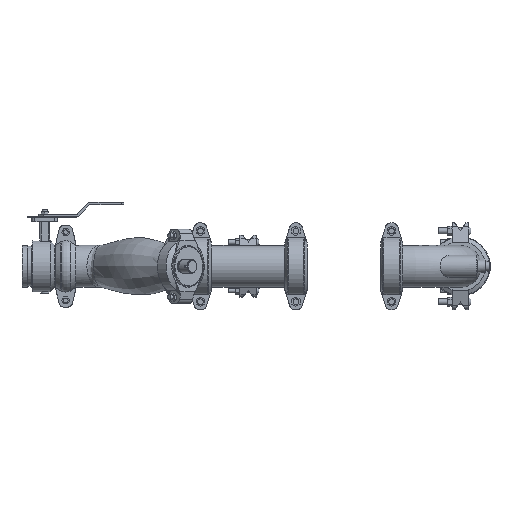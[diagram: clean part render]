
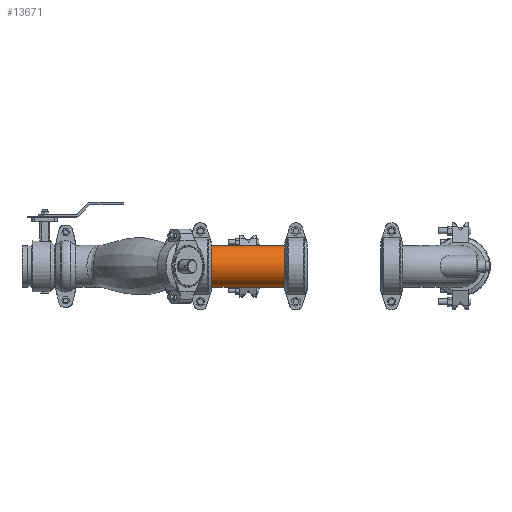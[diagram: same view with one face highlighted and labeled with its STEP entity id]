
A CAD part, left-side view. The second image highlights one B-rep face of the part: STEP entity #13671.
In plain terms, the highlighted cylindrical face has radius 57.15 mm (diameter 114.3 mm), a full revolution.
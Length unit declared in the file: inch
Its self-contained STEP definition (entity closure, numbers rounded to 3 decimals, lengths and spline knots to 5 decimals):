
#307=B_SPLINE_CURVE_WITH_KNOTS('',3,(#20844,#20845,#20846,#20847,#20848,
#20849,#20850,#20851,#20852,#20853,#20854,#20855,#20856,#20857,#20858,#20859,
#20860,#20861,#20862,#20863,#20864,#20865,#20866,#20867,#20868,#20869,#20870,
#20871,#20872,#20873,#20874,#20875,#20876,#20877,#20878,#20879,#20880,#20881,
#20882,#20883,#20884,#20885,#20886,#20887,#20888,#20889,#20890,#20891,#20892,
#20893),.UNSPECIFIED.,.F.,.F.,(4,2,2,2,2,2,2,2,2,2,2,2,2,2,2,2,2,2,2,2,
2,2,2,2,4),(0.,0.71641,1.43281,2.14922,2.86562,
3.5757,4.28578,4.99586,5.70593,6.41601,
7.12609,7.83617,8.54625,9.26265,9.97906,
10.69546,11.41187,12.12827,12.84468,13.56108,
14.27749,14.98757,15.69765,16.40772,17.1178),
 .UNSPECIFIED.);
#308=B_SPLINE_CURVE_WITH_KNOTS('',3,(#20894,#20895,#20896,#20897,#20898,
#20899,#20900,#20901,#20902,#20903,#20904,#20905,#20906,#20907,#20908,#20909,
#20910,#20911),.UNSPECIFIED.,.F.,.F.,(4,2,2,2,2,2,2,2,4),(17.1178,
17.82788,18.53796,19.24804,19.95811,20.67452,
21.39092,22.10733,22.82374),.UNSPECIFIED.);
#472=LINE('',#20941,#1454);
#1454=VECTOR('',#16618,2.25);
#2434=CYLINDRICAL_SURFACE('',#14865,2.25);
#2696=FACE_BOUND('',#3631,.T.);
#2876=FACE_OUTER_BOUND('',#3630,.T.);
#3630=EDGE_LOOP('',(#8731,#8732,#8733,#8734,#8735,#8736));
#3631=EDGE_LOOP('',(#8737,#8738));
#4547=CIRCLE('',#14866,2.25);
#4548=CIRCLE('',#14867,2.25);
#4549=CIRCLE('',#14868,2.25);
#4550=CIRCLE('',#14869,2.25);
#5308=VERTEX_POINT('',#20841);
#5309=VERTEX_POINT('',#20843);
#5318=VERTEX_POINT('',#20936);
#5319=VERTEX_POINT('',#20937);
#5320=VERTEX_POINT('',#20940);
#5321=VERTEX_POINT('',#20942);
#6658=EDGE_CURVE('',#5309,#5308,#307,.T.);
#6659=EDGE_CURVE('',#5308,#5309,#308,.T.);
#6670=EDGE_CURVE('',#5318,#5319,#4547,.T.);
#6671=EDGE_CURVE('',#5319,#5318,#4548,.T.);
#6672=EDGE_CURVE('',#5319,#5320,#472,.T.);
#6673=EDGE_CURVE('',#5320,#5321,#4549,.T.);
#6674=EDGE_CURVE('',#5321,#5320,#4550,.T.);
#8731=ORIENTED_EDGE('',*,*,#6670,.F.);
#8732=ORIENTED_EDGE('',*,*,#6671,.F.);
#8733=ORIENTED_EDGE('',*,*,#6672,.T.);
#8734=ORIENTED_EDGE('',*,*,#6673,.T.);
#8735=ORIENTED_EDGE('',*,*,#6674,.T.);
#8736=ORIENTED_EDGE('',*,*,#6672,.F.);
#8737=ORIENTED_EDGE('',*,*,#6658,.T.);
#8738=ORIENTED_EDGE('',*,*,#6659,.T.);
#13671=ADVANCED_FACE('',(#2876,#2696),#2434,.T.);
#14865=AXIS2_PLACEMENT_3D('',#20935,#16612,#16613);
#14866=AXIS2_PLACEMENT_3D('',#20938,#16614,#16615);
#14867=AXIS2_PLACEMENT_3D('',#20939,#16616,#16617);
#14868=AXIS2_PLACEMENT_3D('',#20943,#16619,#16620);
#14869=AXIS2_PLACEMENT_3D('',#20944,#16621,#16622);
#16612=DIRECTION('center_axis',(1.,0.,0.));
#16613=DIRECTION('ref_axis',(0.,-1.,0.));
#16614=DIRECTION('center_axis',(1.,0.,0.));
#16615=DIRECTION('ref_axis',(0.,-1.,0.));
#16616=DIRECTION('center_axis',(1.,0.,0.));
#16617=DIRECTION('ref_axis',(0.,-1.,0.));
#16618=DIRECTION('',(-1.,0.,0.));
#16619=DIRECTION('center_axis',(1.,0.,0.));
#16620=DIRECTION('ref_axis',(0.,-1.,0.));
#16621=DIRECTION('center_axis',(1.,0.,0.));
#16622=DIRECTION('ref_axis',(0.,-1.,0.));
#20841=CARTESIAN_POINT('',(1.4375,-2.25,0.));
#20843=CARTESIAN_POINT('',(0.,-1.73092,-1.4375));
#20844=CARTESIAN_POINT('Ctrl Pts',(0.,-1.73092,-1.4375));
#20845=CARTESIAN_POINT('Ctrl Pts',(-0.09402,-1.73092,
-1.4375));
#20846=CARTESIAN_POINT('Ctrl Pts',(-0.18975,-1.73882,
-1.42815));
#20847=CARTESIAN_POINT('Ctrl Pts',(-0.37779,-1.76924,
-1.39028));
#20848=CARTESIAN_POINT('Ctrl Pts',(-0.47012,-1.79168,
-1.36179));
#20849=CARTESIAN_POINT('Ctrl Pts',(-0.64575,-1.84556,
-1.28783));
#20850=CARTESIAN_POINT('Ctrl Pts',(-0.72923,-1.87696,
-1.24229));
#20851=CARTESIAN_POINT('Ctrl Pts',(-0.88329,-1.94201,
-1.13792));
#20852=CARTESIAN_POINT('Ctrl Pts',(-0.95388,-1.97562,
-1.07905));
#20853=CARTESIAN_POINT('Ctrl Pts',(-1.0785,-2.03872,
-0.95443));
#20854=CARTESIAN_POINT('Ctrl Pts',(-1.13727,-2.07066,
-0.88414));
#20855=CARTESIAN_POINT('Ctrl Pts',(-1.24184,-2.12988,
-0.73001));
#20856=CARTESIAN_POINT('Ctrl Pts',(-1.28764,-2.15714,
-0.64618));
#20857=CARTESIAN_POINT('Ctrl Pts',(-1.36195,-2.2023,
-0.46975));
#20858=CARTESIAN_POINT('Ctrl Pts',(-1.39051,-2.22022,-0.37697));
#20859=CARTESIAN_POINT('Ctrl Pts',(-1.42829,-2.24408,
-0.18869));
#20860=CARTESIAN_POINT('Ctrl Pts',(-1.4375,-2.25,-0.09319));
#20861=CARTESIAN_POINT('Ctrl Pts',(-1.4375,-2.25,0.09319));
#20862=CARTESIAN_POINT('Ctrl Pts',(-1.42829,-2.24408,
0.18869));
#20863=CARTESIAN_POINT('Ctrl Pts',(-1.39051,-2.22022,0.37697));
#20864=CARTESIAN_POINT('Ctrl Pts',(-1.36195,-2.2023,
0.46975));
#20865=CARTESIAN_POINT('Ctrl Pts',(-1.28764,-2.15714,
0.64618));
#20866=CARTESIAN_POINT('Ctrl Pts',(-1.24184,-2.12988,
0.73001));
#20867=CARTESIAN_POINT('Ctrl Pts',(-1.13727,-2.07066,
0.88414));
#20868=CARTESIAN_POINT('Ctrl Pts',(-1.0785,-2.03872,
0.95443));
#20869=CARTESIAN_POINT('Ctrl Pts',(-0.95388,-1.97562,
1.07905));
#20870=CARTESIAN_POINT('Ctrl Pts',(-0.88329,-1.94201,
1.13792));
#20871=CARTESIAN_POINT('Ctrl Pts',(-0.72923,-1.87696,
1.24229));
#20872=CARTESIAN_POINT('Ctrl Pts',(-0.64575,-1.84556,
1.28783));
#20873=CARTESIAN_POINT('Ctrl Pts',(-0.47012,-1.79168,
1.36179));
#20874=CARTESIAN_POINT('Ctrl Pts',(-0.37779,-1.76924,
1.39028));
#20875=CARTESIAN_POINT('Ctrl Pts',(-0.18975,-1.73882,
1.42815));
#20876=CARTESIAN_POINT('Ctrl Pts',(-0.09402,-1.73092,
1.4375));
#20877=CARTESIAN_POINT('Ctrl Pts',(0.09402,-1.73092,
1.4375));
#20878=CARTESIAN_POINT('Ctrl Pts',(0.18975,-1.73882,
1.42815));
#20879=CARTESIAN_POINT('Ctrl Pts',(0.37779,-1.76924,
1.39028));
#20880=CARTESIAN_POINT('Ctrl Pts',(0.47012,-1.79168,
1.36179));
#20881=CARTESIAN_POINT('Ctrl Pts',(0.64575,-1.84556,
1.28783));
#20882=CARTESIAN_POINT('Ctrl Pts',(0.72923,-1.87696,
1.24229));
#20883=CARTESIAN_POINT('Ctrl Pts',(0.88329,-1.94201,
1.13792));
#20884=CARTESIAN_POINT('Ctrl Pts',(0.95388,-1.97562,
1.07905));
#20885=CARTESIAN_POINT('Ctrl Pts',(1.0785,-2.03872,0.95443));
#20886=CARTESIAN_POINT('Ctrl Pts',(1.13727,-2.07066,0.88414));
#20887=CARTESIAN_POINT('Ctrl Pts',(1.24184,-2.12988,0.73001));
#20888=CARTESIAN_POINT('Ctrl Pts',(1.28764,-2.15714,0.64618));
#20889=CARTESIAN_POINT('Ctrl Pts',(1.36195,-2.2023,0.46975));
#20890=CARTESIAN_POINT('Ctrl Pts',(1.39051,-2.22022,0.37697));
#20891=CARTESIAN_POINT('Ctrl Pts',(1.42829,-2.24408,0.18869));
#20892=CARTESIAN_POINT('Ctrl Pts',(1.4375,-2.25,0.09319));
#20893=CARTESIAN_POINT('Ctrl Pts',(1.4375,-2.25,0.));
#20894=CARTESIAN_POINT('Ctrl Pts',(1.4375,-2.25,0.));
#20895=CARTESIAN_POINT('Ctrl Pts',(1.4375,-2.25,-0.09319));
#20896=CARTESIAN_POINT('Ctrl Pts',(1.42829,-2.24408,-0.18869));
#20897=CARTESIAN_POINT('Ctrl Pts',(1.39051,-2.22022,-0.37697));
#20898=CARTESIAN_POINT('Ctrl Pts',(1.36195,-2.2023,-0.46975));
#20899=CARTESIAN_POINT('Ctrl Pts',(1.28764,-2.15714,-0.64618));
#20900=CARTESIAN_POINT('Ctrl Pts',(1.24184,-2.12988,-0.73001));
#20901=CARTESIAN_POINT('Ctrl Pts',(1.13727,-2.07066,-0.88414));
#20902=CARTESIAN_POINT('Ctrl Pts',(1.0785,-2.03872,-0.95443));
#20903=CARTESIAN_POINT('Ctrl Pts',(0.95388,-1.97562,
-1.07905));
#20904=CARTESIAN_POINT('Ctrl Pts',(0.88329,-1.94201,
-1.13792));
#20905=CARTESIAN_POINT('Ctrl Pts',(0.72923,-1.87696,
-1.24229));
#20906=CARTESIAN_POINT('Ctrl Pts',(0.64575,-1.84556,
-1.28783));
#20907=CARTESIAN_POINT('Ctrl Pts',(0.47012,-1.79168,
-1.36179));
#20908=CARTESIAN_POINT('Ctrl Pts',(0.37779,-1.76924,
-1.39028));
#20909=CARTESIAN_POINT('Ctrl Pts',(0.18975,-1.73882,
-1.42815));
#20910=CARTESIAN_POINT('Ctrl Pts',(0.09402,-1.73092,
-1.4375));
#20911=CARTESIAN_POINT('Ctrl Pts',(0.,-1.73092,
-1.4375));
#20935=CARTESIAN_POINT('Origin',(0.625,0.,0.));
#20936=CARTESIAN_POINT('',(4.,-2.25,0.));
#20937=CARTESIAN_POINT('',(4.,2.25,0.));
#20938=CARTESIAN_POINT('Origin',(4.,0.,0.));
#20939=CARTESIAN_POINT('Origin',(4.,0.,0.));
#20940=CARTESIAN_POINT('',(-4.,2.25,0.));
#20941=CARTESIAN_POINT('',(0.625,2.25,0.));
#20942=CARTESIAN_POINT('',(-4.,-2.25,0.));
#20943=CARTESIAN_POINT('Origin',(-4.,0.,0.));
#20944=CARTESIAN_POINT('Origin',(-4.,0.,0.));
